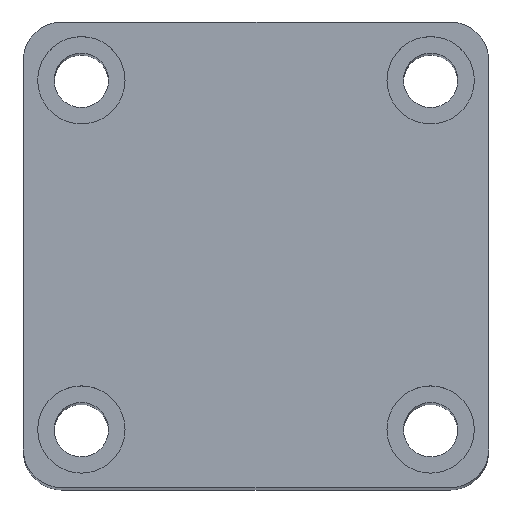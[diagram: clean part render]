
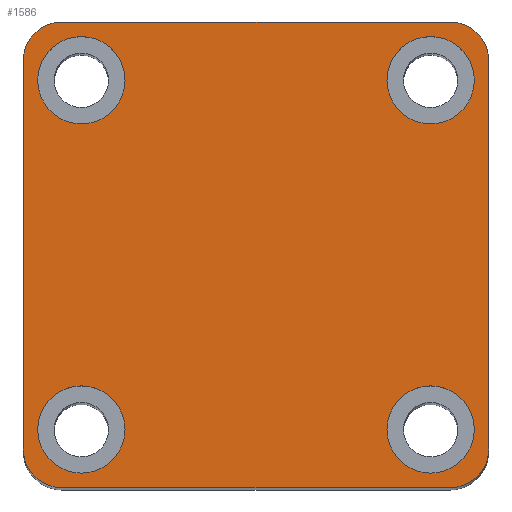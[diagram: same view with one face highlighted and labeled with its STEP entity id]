
A CAD part, top view. The second image highlights one B-rep face of the part: STEP entity #1586.
In plain terms, the highlighted planar face has unit normal (0, 0, 1).
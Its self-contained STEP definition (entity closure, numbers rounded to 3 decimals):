
#38 = VERTEX_POINT ( 'NONE', #2036 ) ;
#39 = VERTEX_POINT ( 'NONE', #2010 ) ;
#46 = VERTEX_POINT ( 'NONE', #1993 ) ;
#47 = VERTEX_POINT ( 'NONE', #1992 ) ;
#52 = VERTEX_POINT ( 'NONE', #1986 ) ;
#65 = VERTEX_POINT ( 'NONE', #1966 ) ;
#69 = VERTEX_POINT ( 'NONE', #1953 ) ;
#166 = EDGE_LOOP ( 'NONE', ( #1539, #1540 ) ) ;
#168 = EDGE_LOOP ( 'NONE', ( #1535, #1536 ) ) ;
#175 = EDGE_LOOP ( 'NONE', ( #1543, #1544, #1545, #1546, #1547, #1427, #1428, #1412 ) ) ;
#176 = EDGE_LOOP ( 'NONE', ( #1541, #1542 ) ) ;
#183 = EDGE_LOOP ( 'NONE', ( #1537, #1538 ) ) ;
#430 = VERTEX_POINT ( 'NONE', #1929 ) ;
#432 = VERTEX_POINT ( 'NONE', #1930 ) ;
#446 = VERTEX_POINT ( 'NONE', #1909 ) ;
#452 = VERTEX_POINT ( 'NONE', #1896 ) ;
#453 = VERTEX_POINT ( 'NONE', #1903 ) ;
#454 = VERTEX_POINT ( 'NONE', #1890 ) ;
#466 = VERTEX_POINT ( 'NONE', #1869 ) ;
#476 = VERTEX_POINT ( 'NONE', #1848 ) ;
#477 = VERTEX_POINT ( 'NONE', #1849 ) ;
#815 = DIRECTION ( 'NONE',  ( 1., 0., 0. ) ) ;
#817 = CARTESIAN_POINT ( 'NONE',  ( 0., 0., 135. ) ) ;
#819 = PLANE ( 'NONE',  #926 ) ;
#823 = DIRECTION ( 'NONE',  ( 0., 0., 1. ) ) ;
#846 = DIRECTION ( 'NONE',  ( 1., 0., 0. ) ) ;
#855 = DIRECTION ( 'NONE',  ( 0., 0., 1. ) ) ;
#856 = CARTESIAN_POINT ( 'NONE',  ( 18., 18., 135. ) ) ;
#926 = AXIS2_PLACEMENT_3D ( 'NONE', #817, #823, #815 ) ;
#973 = AXIS2_PLACEMENT_3D ( 'NONE', #856, #855, #846 ) ;
#976 = EDGE_CURVE ( 'NONE', #65, #52, #1438, .T. ) ;
#1003 = EDGE_CURVE ( 'NONE', #476, #446, #1415, .T. ) ;
#1005 = EDGE_CURVE ( 'NONE', #466, #430, #1403, .T. ) ;
#1015 = EDGE_CURVE ( 'NONE', #38, #477, #1385, .T. ) ;
#1017 = EDGE_CURVE ( 'NONE', #47, #46, #1380, .T. ) ;
#1019 = EDGE_CURVE ( 'NONE', #454, #39, #1383, .T. ) ;
#1023 = EDGE_CURVE ( 'NONE', #453, #452, #1369, .T. ) ;
#1027 = EDGE_CURVE ( 'NONE', #446, #476, #1361, .T. ) ;
#1028 = EDGE_CURVE ( 'NONE', #69, #432, #1365, .T. ) ;
#1029 = EDGE_CURVE ( 'NONE', #39, #454, #1358, .T. ) ;
#1030 = EDGE_CURVE ( 'NONE', #52, #65, #1357, .T. ) ;
#1031 = EDGE_CURVE ( 'NONE', #477, #47, #1356, .T. ) ;
#1032 = EDGE_CURVE ( 'NONE', #46, #453, #1355, .T. ) ;
#1033 = EDGE_CURVE ( 'NONE', #452, #466, #1354, .T. ) ;
#1034 = EDGE_CURVE ( 'NONE', #430, #38, #1353, .T. ) ;
#1054 = EDGE_CURVE ( 'NONE', #432, #69, #1334, .T. ) ;
#1147 = FACE_OUTER_BOUND ( 'NONE', #175, .T. ) ;
#1148 = FACE_BOUND ( 'NONE', #166, .T. ) ;
#1151 = FACE_BOUND ( 'NONE', #183, .T. ) ;
#1153 = FACE_BOUND ( 'NONE', #168, .T. ) ;
#1155 = FACE_BOUND ( 'NONE', #176, .T. ) ;
#1334 = CIRCLE ( 'NONE', #973, 4.5 ) ;
#1353 = CIRCLE ( 'NONE', #2670, 4. ) ;
#1354 = CIRCLE ( 'NONE', #2671, 4. ) ;
#1355 = CIRCLE ( 'NONE', #2672, 4. ) ;
#1356 = CIRCLE ( 'NONE', #2673, 4. ) ;
#1357 = CIRCLE ( 'NONE', #2674, 4.5 ) ;
#1358 = CIRCLE ( 'NONE', #2675, 4.5 ) ;
#1361 = CIRCLE ( 'NONE', #2677, 4.5 ) ;
#1365 = CIRCLE ( 'NONE', #2676, 4.5 ) ;
#1366 = VECTOR ( 'NONE', #1924, 1000. ) ;
#1369 = LINE ( 'NONE', #1931, #1366 ) ;
#1377 = VECTOR ( 'NONE', #1955, 1000. ) ;
#1380 = LINE ( 'NONE', #1956, #1377 ) ;
#1381 = VECTOR ( 'NONE', #1975, 1000. ) ;
#1383 = CIRCLE ( 'NONE', #2678, 4.5 ) ;
#1385 = LINE ( 'NONE', #1965, #1381 ) ;
#1400 = VECTOR ( 'NONE', #2025, 1000. ) ;
#1403 = LINE ( 'NONE', #2008, #1400 ) ;
#1412 = ORIENTED_EDGE ( 'NONE', *, *, #1034, .T. ) ;
#1415 = CIRCLE ( 'NONE', #2682, 4.5 ) ;
#1427 = ORIENTED_EDGE ( 'NONE', *, *, #1033, .T. ) ;
#1428 = ORIENTED_EDGE ( 'NONE', *, *, #1005, .T. ) ;
#1438 = CIRCLE ( 'NONE', #2712, 4.5 ) ;
#1535 = ORIENTED_EDGE ( 'NONE', *, *, #1027, .F. ) ;
#1536 = ORIENTED_EDGE ( 'NONE', *, *, #1003, .F. ) ;
#1537 = ORIENTED_EDGE ( 'NONE', *, *, #1028, .F. ) ;
#1538 = ORIENTED_EDGE ( 'NONE', *, *, #1054, .F. ) ;
#1539 = ORIENTED_EDGE ( 'NONE', *, *, #1029, .F. ) ;
#1540 = ORIENTED_EDGE ( 'NONE', *, *, #1019, .F. ) ;
#1541 = ORIENTED_EDGE ( 'NONE', *, *, #1030, .F. ) ;
#1542 = ORIENTED_EDGE ( 'NONE', *, *, #976, .F. ) ;
#1543 = ORIENTED_EDGE ( 'NONE', *, *, #1015, .T. ) ;
#1544 = ORIENTED_EDGE ( 'NONE', *, *, #1031, .T. ) ;
#1545 = ORIENTED_EDGE ( 'NONE', *, *, #1017, .T. ) ;
#1546 = ORIENTED_EDGE ( 'NONE', *, *, #1032, .T. ) ;
#1547 = ORIENTED_EDGE ( 'NONE', *, *, #1023, .T. ) ;
#1586 = ADVANCED_FACE ( 'NONE', ( #1153, #1151, #1148, #1155, #1147 ), #819, .T. ) ;
#1757 = CARTESIAN_POINT ( 'NONE',  ( 18., -18., 135. ) ) ;
#1759 = DIRECTION ( 'NONE',  ( 1., 0., 0. ) ) ;
#1762 = DIRECTION ( 'NONE',  ( 0., 0., 1. ) ) ;
#1848 = CARTESIAN_POINT ( 'NONE',  ( -22.5, 18., 135. ) ) ;
#1849 = CARTESIAN_POINT ( 'NONE',  ( -20., 24., 135. ) ) ;
#1863 = DIRECTION ( 'NONE',  ( 1., 0., 0. ) ) ;
#1869 = CARTESIAN_POINT ( 'NONE',  ( 24., -20., 135. ) ) ;
#1870 = DIRECTION ( 'NONE',  ( 0., 0., 1. ) ) ;
#1873 = CARTESIAN_POINT ( 'NONE',  ( 20., 20., 135. ) ) ;
#1875 = DIRECTION ( 'NONE',  ( 1., 0., 0. ) ) ;
#1877 = DIRECTION ( 'NONE',  ( 0., 0., 1. ) ) ;
#1879 = CARTESIAN_POINT ( 'NONE',  ( 20., -20., 135. ) ) ;
#1881 = DIRECTION ( 'NONE',  ( 1., 0., 0. ) ) ;
#1882 = DIRECTION ( 'NONE',  ( 0., 0., 1. ) ) ;
#1883 = CARTESIAN_POINT ( 'NONE',  ( -20., -20., 135. ) ) ;
#1885 = DIRECTION ( 'NONE',  ( 1., 0., 0. ) ) ;
#1888 = DIRECTION ( 'NONE',  ( 0., 0., 1. ) ) ;
#1889 = CARTESIAN_POINT ( 'NONE',  ( -20., 20., 135. ) ) ;
#1890 = CARTESIAN_POINT ( 'NONE',  ( -22.5, -18., 135. ) ) ;
#1891 = DIRECTION ( 'NONE',  ( 1., 0., 0. ) ) ;
#1893 = DIRECTION ( 'NONE',  ( 0., 0., 1. ) ) ;
#1894 = CARTESIAN_POINT ( 'NONE',  ( 18., -18., 135. ) ) ;
#1895 = DIRECTION ( 'NONE',  ( 1., 0., 0. ) ) ;
#1896 = CARTESIAN_POINT ( 'NONE',  ( 20., -24., 135. ) ) ;
#1897 = DIRECTION ( 'NONE',  ( 0., 0., 1. ) ) ;
#1901 = CARTESIAN_POINT ( 'NONE',  ( -18., -18., 135. ) ) ;
#1903 = CARTESIAN_POINT ( 'NONE',  ( -20., -24., 135. ) ) ;
#1906 = DIRECTION ( 'NONE',  ( 1., 0., 0. ) ) ;
#1907 = DIRECTION ( 'NONE',  ( 0., 0., 1. ) ) ;
#1908 = CARTESIAN_POINT ( 'NONE',  ( 18., 18., 135. ) ) ;
#1909 = CARTESIAN_POINT ( 'NONE',  ( -13.5, 18., 135. ) ) ;
#1910 = DIRECTION ( 'NONE',  ( 1., 0., 0. ) ) ;
#1911 = DIRECTION ( 'NONE',  ( 0., 0., 1. ) ) ;
#1912 = CARTESIAN_POINT ( 'NONE',  ( -18., 18., 135. ) ) ;
#1924 = DIRECTION ( 'NONE',  ( 1., 0., 0. ) ) ;
#1929 = CARTESIAN_POINT ( 'NONE',  ( 24., 20., 135. ) ) ;
#1930 = CARTESIAN_POINT ( 'NONE',  ( 13.5, 18., 135. ) ) ;
#1931 = CARTESIAN_POINT ( 'NONE',  ( -24., -24., 135. ) ) ;
#1939 = DIRECTION ( 'NONE',  ( 1., 0., 0. ) ) ;
#1940 = DIRECTION ( 'NONE',  ( 0., 0., 1. ) ) ;
#1944 = CARTESIAN_POINT ( 'NONE',  ( -18., -18., 135. ) ) ;
#1953 = CARTESIAN_POINT ( 'NONE',  ( 22.5, 18., 135. ) ) ;
#1955 = DIRECTION ( 'NONE',  ( 0., -1., 0. ) ) ;
#1956 = CARTESIAN_POINT ( 'NONE',  ( -24., 24., 135. ) ) ;
#1965 = CARTESIAN_POINT ( 'NONE',  ( -24., 24., 135. ) ) ;
#1966 = CARTESIAN_POINT ( 'NONE',  ( 13.5, -18., 135. ) ) ;
#1975 = DIRECTION ( 'NONE',  ( -1., 0., 0. ) ) ;
#1986 = CARTESIAN_POINT ( 'NONE',  ( 22.5, -18., 135. ) ) ;
#1992 = CARTESIAN_POINT ( 'NONE',  ( -24., 20., 135. ) ) ;
#1993 = CARTESIAN_POINT ( 'NONE',  ( -24., -20., 135. ) ) ;
#2008 = CARTESIAN_POINT ( 'NONE',  ( 24., 24., 135. ) ) ;
#2010 = CARTESIAN_POINT ( 'NONE',  ( -13.5, -18., 135. ) ) ;
#2013 = DIRECTION ( 'NONE',  ( 1., 0., 0. ) ) ;
#2014 = DIRECTION ( 'NONE',  ( 0., 0., 1. ) ) ;
#2015 = CARTESIAN_POINT ( 'NONE',  ( -18., 18., 135. ) ) ;
#2025 = DIRECTION ( 'NONE',  ( 0., 1., 0. ) ) ;
#2036 = CARTESIAN_POINT ( 'NONE',  ( 20., 24., 135. ) ) ;
#2670 = AXIS2_PLACEMENT_3D ( 'NONE', #1873, #1870, #1863 ) ;
#2671 = AXIS2_PLACEMENT_3D ( 'NONE', #1879, #1877, #1875 ) ;
#2672 = AXIS2_PLACEMENT_3D ( 'NONE', #1883, #1882, #1881 ) ;
#2673 = AXIS2_PLACEMENT_3D ( 'NONE', #1889, #1888, #1885 ) ;
#2674 = AXIS2_PLACEMENT_3D ( 'NONE', #1894, #1893, #1891 ) ;
#2675 = AXIS2_PLACEMENT_3D ( 'NONE', #1901, #1897, #1895 ) ;
#2676 = AXIS2_PLACEMENT_3D ( 'NONE', #1908, #1907, #1906 ) ;
#2677 = AXIS2_PLACEMENT_3D ( 'NONE', #1912, #1911, #1910 ) ;
#2678 = AXIS2_PLACEMENT_3D ( 'NONE', #1944, #1940, #1939 ) ;
#2682 = AXIS2_PLACEMENT_3D ( 'NONE', #2015, #2014, #2013 ) ;
#2712 = AXIS2_PLACEMENT_3D ( 'NONE', #1757, #1762, #1759 ) ;
